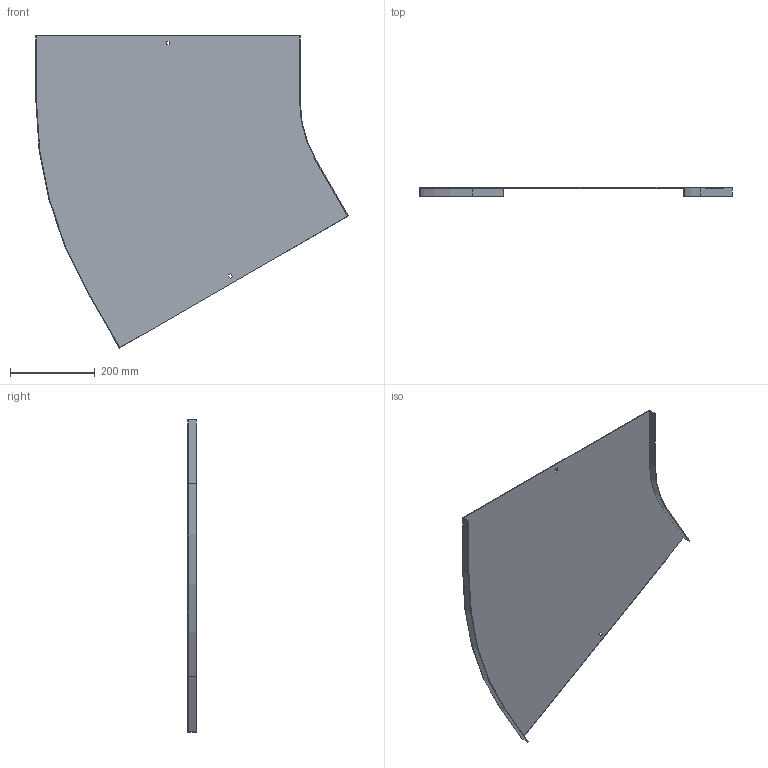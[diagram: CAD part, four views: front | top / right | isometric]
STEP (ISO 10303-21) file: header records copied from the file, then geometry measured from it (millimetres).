
FILE_DESCRIPTION (( 'STEP AP214' ), '1' );
FILE_NAME ('12N3P600.step', '2025-02-21T13:34:02', ( '' ), ( '' ), 'SwSTEP 2.0', 'SolidWorks 2023', '' );
FILE_SCHEMA (( 'AUTOMOTIVE_DESIGN' ));
Length unit declared in the file: millimetre
Products named in the file (1): 12N3P600
Bounding box: 736.65 x 20 x 735.65 mm (x, y, z)
Volume: 607842.2 mm3; surface area: 814371.7 mm2
Topology: 1 solids, 1 shells, 26 faces, 72 edges, 48 vertices
Faces by surface type: plane 22, cylinder 4
Entity records: 855 total; most frequent: CARTESIAN_POINT 147, ORIENTED_EDGE 144, DIRECTION 134, EDGE_CURVE 72, LINE 64, VECTOR 64, VERTEX_POINT 48, AXIS2_PLACEMENT_3D 35
